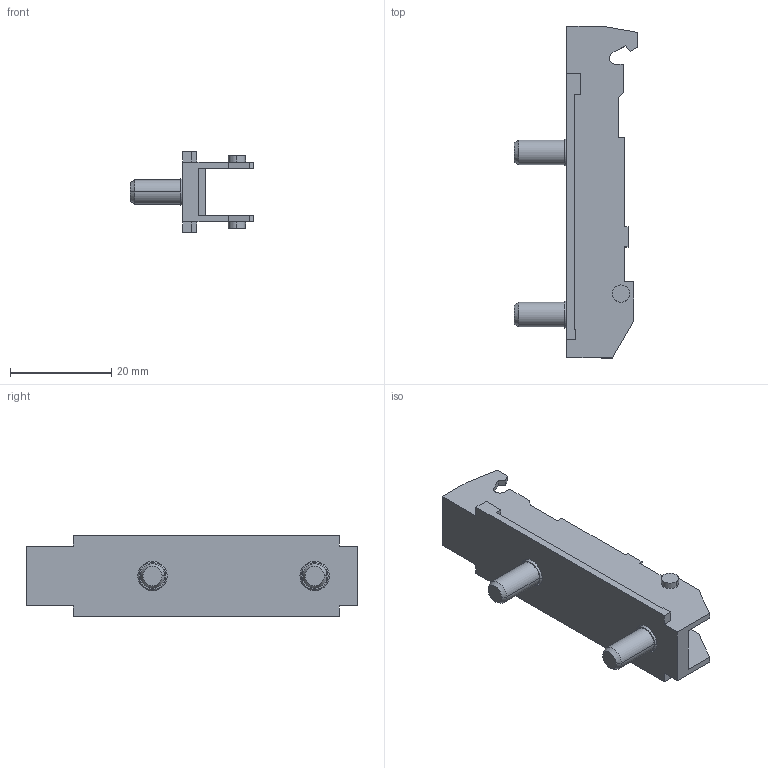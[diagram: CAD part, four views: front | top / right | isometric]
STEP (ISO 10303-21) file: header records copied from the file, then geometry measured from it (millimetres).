
FILE_DESCRIPTION (( 'STEP AP214' ), '1' );
FILE_NAME ('1D_Linearmontageplatte 20_32_Euroschraube vormontiert_H3,5.step', '2010-11-18T10:17:26', ( 'grass' ), ( '' ), 'SwSTEP 2.0', 'SolidWorks 2010', '' );
FILE_SCHEMA (( 'AUTOMOTIVE_DESIGN' ));
Length unit declared in the file: millimetre
Products named in the file (1): 1D_Linearmontageplatte 20_32_Euroschraube vormontiert_H3,5
Bounding box: 24.35 x 65.5 x 16 mm (x, y, z)
Volume: 4637.7 mm3; surface area: 5207.2 mm2
Topology: 1 solids, 1 shells, 102 faces, 264 edges, 172 vertices
Faces by surface type: plane 72, cylinder 22, cone 8
Entity records: 3114 total; most frequent: CARTESIAN_POINT 539, ORIENTED_EDGE 528, DIRECTION 518, EDGE_CURVE 264, VECTOR 216, LINE 216, VERTEX_POINT 172, AXIS2_PLACEMENT_3D 151
